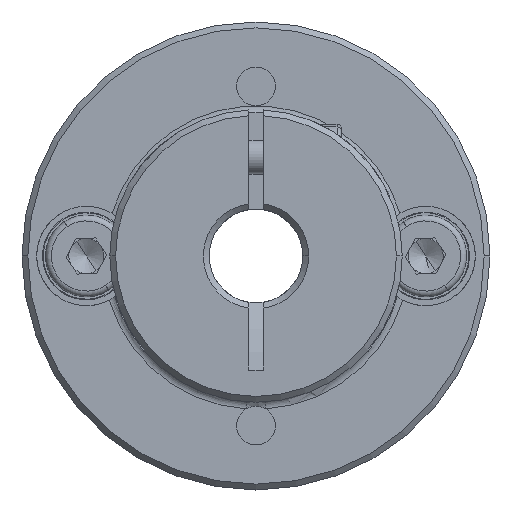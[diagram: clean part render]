
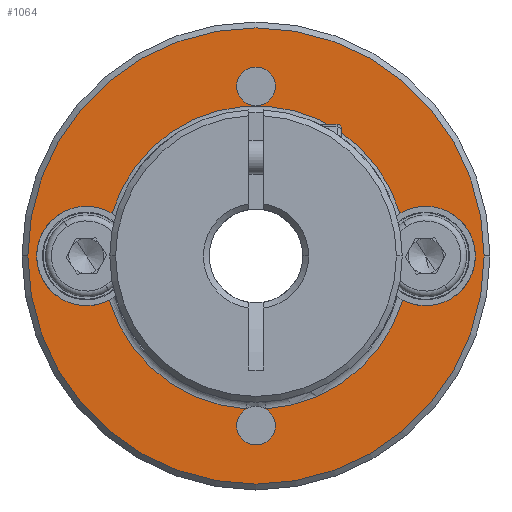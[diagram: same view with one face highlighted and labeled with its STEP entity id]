
A CAD part, front view. The second image highlights one B-rep face of the part: STEP entity #1064.
In plain terms, the highlighted planar face has unit normal (0, -1, 0).
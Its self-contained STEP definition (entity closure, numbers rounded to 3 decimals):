
#8 = DIRECTION ( 'NONE',  ( 1., 0., 0. ) ) ;
#98 = CIRCLE ( 'NONE', #5739, 4.25 ) ;
#136 = CARTESIAN_POINT ( 'NONE',  ( -30.755, -13.63, 40. ) ) ;
#140 = DIRECTION ( 'NONE',  ( 1., 0., 0. ) ) ;
#293 = VERTEX_POINT ( 'NONE', #136 ) ;
#538 = DIRECTION ( 'NONE',  ( 1., 0., 0. ) ) ;
#557 = AXIS2_PLACEMENT_3D ( 'NONE', #7334, #8339, #4388 ) ;
#699 = CARTESIAN_POINT ( 'NONE',  ( 6.745, -13.63, 40. ) ) ;
#746 = CARTESIAN_POINT ( 'NONE',  ( -31.505, -13.63, 40. ) ) ;
#983 = DIRECTION ( 'NONE',  ( 0., -1., 0. ) ) ;
#1064 = ADVANCED_FACE ( 'NONE', ( #9722, #12351, #7077 ), #1891, .T. ) ;
#1195 = CARTESIAN_POINT ( 'NONE',  ( -12.834, -13.63, 26.926 ) ) ;
#1251 = CIRCLE ( 'NONE', #2001, 1.65 ) ;
#1328 = CIRCLE ( 'NONE', #12698, 13.1 ) ;
#1385 = DIRECTION ( 'NONE',  ( 0., 1., 0. ) ) ;
#1387 = CARTESIAN_POINT ( 'NONE',  ( -13.655, -13.63, 25.5 ) ) ;
#1588 = CIRCLE ( 'NONE', #7190, 4.25 ) ;
#1776 = DIRECTION ( 'NONE',  ( 1., 0., 0. ) ) ;
#1805 = EDGE_LOOP ( 'NONE', ( #5403, #10533, #6155, #10962, #7065, #4972, #3251, #3624, #9839, #10892 ) ) ;
#1891 = PLANE ( 'NONE',  #5792 ) ;
#2001 = AXIS2_PLACEMENT_3D ( 'NONE', #3462, #1385, #538 ) ;
#2010 = CARTESIAN_POINT ( 'NONE',  ( -12.005, -13.63, 54.5 ) ) ;
#2146 = DIRECTION ( 'NONE',  ( 0., 1., 0. ) ) ;
#2210 = EDGE_CURVE ( 'NONE', #6198, #8143, #8414, .T. ) ;
#2237 = EDGE_CURVE ( 'NONE', #6585, #7682, #1328, .T. ) ;
#2239 = CIRCLE ( 'NONE', #4803, 4.25 ) ;
#2303 = EDGE_CURVE ( 'NONE', #3643, #10556, #98, .T. ) ;
#2759 = DIRECTION ( 'NONE',  ( 0., 1., 0. ) ) ;
#2765 = EDGE_CURVE ( 'NONE', #8352, #12144, #6727, .T. ) ;
#2916 = CARTESIAN_POINT ( 'NONE',  ( -12.005, -13.63, 40. ) ) ;
#2937 = CIRCLE ( 'NONE', #10426, 1.65 ) ;
#3081 = DIRECTION ( 'NONE',  ( 0., 1., 0. ) ) ;
#3141 = CIRCLE ( 'NONE', #5092, 13.1 ) ;
#3251 = ORIENTED_EDGE ( 'NONE', *, *, #12001, .T. ) ;
#3462 = CARTESIAN_POINT ( 'NONE',  ( -12.005, -13.63, 25.5 ) ) ;
#3507 = VERTEX_POINT ( 'NONE', #7005 ) ;
#3550 = VERTEX_POINT ( 'NONE', #1387 ) ;
#3624 = ORIENTED_EDGE ( 'NONE', *, *, #10952, .T. ) ;
#3643 = VERTEX_POINT ( 'NONE', #699 ) ;
#4388 = DIRECTION ( 'NONE',  ( 1., 0., 0. ) ) ;
#4538 = CARTESIAN_POINT ( 'NONE',  ( -12.005, -13.63, 40. ) ) ;
#4704 = DIRECTION ( 'NONE',  ( 0., -1., 0. ) ) ;
#4722 = VERTEX_POINT ( 'NONE', #11430 ) ;
#4803 = AXIS2_PLACEMENT_3D ( 'NONE', #5734, #12646, #6716 ) ;
#4925 = CARTESIAN_POINT ( 'NONE',  ( -26.505, -13.63, 40. ) ) ;
#4972 = ORIENTED_EDGE ( 'NONE', *, *, #10858, .T. ) ;
#5038 = EDGE_LOOP ( 'NONE', ( #6818, #6092 ) ) ;
#5092 = AXIS2_PLACEMENT_3D ( 'NONE', #8500, #12430, #12397 ) ;
#5175 = EDGE_CURVE ( 'NONE', #3550, #6585, #1251, .T. ) ;
#5288 = DIRECTION ( 'NONE',  ( 1., 0., 0. ) ) ;
#5403 = ORIENTED_EDGE ( 'NONE', *, *, #11482, .T. ) ;
#5714 = CARTESIAN_POINT ( 'NONE',  ( -12.005, -13.63, 25.5 ) ) ;
#5729 = CIRCLE ( 'NONE', #6813, 19.5 ) ;
#5734 = CARTESIAN_POINT ( 'NONE',  ( 2.495, -13.63, 40. ) ) ;
#5739 = AXIS2_PLACEMENT_3D ( 'NONE', #8048, #2146, #9218 ) ;
#5792 = AXIS2_PLACEMENT_3D ( 'NONE', #2916, #983, #8825 ) ;
#5827 = DIRECTION ( 'NONE',  ( 0., 1., 0. ) ) ;
#5912 = CIRCLE ( 'NONE', #9465, 1.65 ) ;
#6092 = ORIENTED_EDGE ( 'NONE', *, *, #2765, .T. ) ;
#6155 = ORIENTED_EDGE ( 'NONE', *, *, #7388, .T. ) ;
#6198 = VERTEX_POINT ( 'NONE', #9455 ) ;
#6418 = DIRECTION ( 'NONE',  ( 0., 1., 0. ) ) ;
#6585 = VERTEX_POINT ( 'NONE', #1195 ) ;
#6716 = DIRECTION ( 'NONE',  ( 1., 0., 0. ) ) ;
#6727 = CIRCLE ( 'NONE', #9414, 19.5 ) ;
#6792 = AXIS2_PLACEMENT_3D ( 'NONE', #4925, #6922, #8 ) ;
#6813 = AXIS2_PLACEMENT_3D ( 'NONE', #4538, #4704, #12707 ) ;
#6818 = ORIENTED_EDGE ( 'NONE', *, *, #9948, .T. ) ;
#6854 = DIRECTION ( 'NONE',  ( 1., 0., 0. ) ) ;
#6922 = DIRECTION ( 'NONE',  ( 0., 1., 0. ) ) ;
#7005 = CARTESIAN_POINT ( 'NONE',  ( -11.175, -13.63, 26.926 ) ) ;
#7065 = ORIENTED_EDGE ( 'NONE', *, *, #2303, .T. ) ;
#7077 = FACE_BOUND ( 'NONE', #9364, .T. ) ;
#7190 = AXIS2_PLACEMENT_3D ( 'NONE', #7305, #6418, #7426 ) ;
#7305 = CARTESIAN_POINT ( 'NONE',  ( -26.505, -13.63, 40. ) ) ;
#7334 = CARTESIAN_POINT ( 'NONE',  ( -12.005, -13.63, 40. ) ) ;
#7388 = EDGE_CURVE ( 'NONE', #11296, #10424, #8906, .T. ) ;
#7426 = DIRECTION ( 'NONE',  ( 1., 0., 0. ) ) ;
#7682 = VERTEX_POINT ( 'NONE', #10770 ) ;
#7705 = CARTESIAN_POINT ( 'NONE',  ( -10.355, -13.63, 54.5 ) ) ;
#7774 = CARTESIAN_POINT ( 'NONE',  ( 0.54, -13.63, 36.226 ) ) ;
#8048 = CARTESIAN_POINT ( 'NONE',  ( 2.495, -13.63, 40. ) ) ;
#8143 = VERTEX_POINT ( 'NONE', #7705 ) ;
#8261 = CARTESIAN_POINT ( 'NONE',  ( 7.495, -13.63, 40. ) ) ;
#8339 = DIRECTION ( 'NONE',  ( 0., 1., 0. ) ) ;
#8352 = VERTEX_POINT ( 'NONE', #8261 ) ;
#8414 = CIRCLE ( 'NONE', #10307, 1.65 ) ;
#8500 = CARTESIAN_POINT ( 'NONE',  ( -12.005, -13.63, 40. ) ) ;
#8638 = EDGE_CURVE ( 'NONE', #10424, #3643, #2239, .T. ) ;
#8700 = CIRCLE ( 'NONE', #6792, 4.25 ) ;
#8825 = DIRECTION ( 'NONE',  ( 1., 0., 0. ) ) ;
#8906 = CIRCLE ( 'NONE', #557, 12.829 ) ;
#8916 = CARTESIAN_POINT ( 'NONE',  ( -12.005, -13.63, 40. ) ) ;
#8961 = DIRECTION ( 'NONE',  ( 1., 0., 0. ) ) ;
#8972 = EDGE_CURVE ( 'NONE', #8143, #6198, #5912, .T. ) ;
#8980 = EDGE_CURVE ( 'NONE', #293, #11296, #8700, .T. ) ;
#9218 = DIRECTION ( 'NONE',  ( 1., 0., 0. ) ) ;
#9364 = EDGE_LOOP ( 'NONE', ( #10252, #12639 ) ) ;
#9414 = AXIS2_PLACEMENT_3D ( 'NONE', #12728, #10701, #1776 ) ;
#9455 = CARTESIAN_POINT ( 'NONE',  ( -13.655, -13.63, 54.5 ) ) ;
#9465 = AXIS2_PLACEMENT_3D ( 'NONE', #11802, #5827, #140 ) ;
#9722 = FACE_OUTER_BOUND ( 'NONE', #5038, .T. ) ;
#9839 = ORIENTED_EDGE ( 'NONE', *, *, #5175, .T. ) ;
#9948 = EDGE_CURVE ( 'NONE', #12144, #8352, #5729, .T. ) ;
#9963 = DIRECTION ( 'NONE',  ( 0., 1., 0. ) ) ;
#10239 = DIRECTION ( 'NONE',  ( 0., 1., 0. ) ) ;
#10252 = ORIENTED_EDGE ( 'NONE', *, *, #2210, .T. ) ;
#10307 = AXIS2_PLACEMENT_3D ( 'NONE', #2010, #9963, #8961 ) ;
#10424 = VERTEX_POINT ( 'NONE', #10830 ) ;
#10426 = AXIS2_PLACEMENT_3D ( 'NONE', #12123, #10239, #5288 ) ;
#10533 = ORIENTED_EDGE ( 'NONE', *, *, #8980, .T. ) ;
#10556 = VERTEX_POINT ( 'NONE', #7774 ) ;
#10604 = DIRECTION ( 'NONE',  ( 1., 0., 0. ) ) ;
#10701 = DIRECTION ( 'NONE',  ( 0., -1., 0. ) ) ;
#10770 = CARTESIAN_POINT ( 'NONE',  ( -24.55, -13.63, 36.226 ) ) ;
#10805 = CIRCLE ( 'NONE', #12143, 1.65 ) ;
#10830 = CARTESIAN_POINT ( 'NONE',  ( 0.298, -13.63, 43.638 ) ) ;
#10837 = CARTESIAN_POINT ( 'NONE',  ( -24.307, -13.63, 43.638 ) ) ;
#10858 = EDGE_CURVE ( 'NONE', #10556, #3507, #3141, .T. ) ;
#10892 = ORIENTED_EDGE ( 'NONE', *, *, #2237, .T. ) ;
#10952 = EDGE_CURVE ( 'NONE', #4722, #3550, #10805, .T. ) ;
#10962 = ORIENTED_EDGE ( 'NONE', *, *, #8638, .T. ) ;
#11296 = VERTEX_POINT ( 'NONE', #10837 ) ;
#11430 = CARTESIAN_POINT ( 'NONE',  ( -10.355, -13.63, 25.5 ) ) ;
#11482 = EDGE_CURVE ( 'NONE', #7682, #293, #1588, .T. ) ;
#11802 = CARTESIAN_POINT ( 'NONE',  ( -12.005, -13.63, 54.5 ) ) ;
#12001 = EDGE_CURVE ( 'NONE', #3507, #4722, #2937, .T. ) ;
#12123 = CARTESIAN_POINT ( 'NONE',  ( -12.005, -13.63, 25.5 ) ) ;
#12143 = AXIS2_PLACEMENT_3D ( 'NONE', #5714, #2759, #10604 ) ;
#12144 = VERTEX_POINT ( 'NONE', #746 ) ;
#12351 = FACE_BOUND ( 'NONE', #1805, .T. ) ;
#12397 = DIRECTION ( 'NONE',  ( 1., 0., 0. ) ) ;
#12430 = DIRECTION ( 'NONE',  ( 0., 1., 0. ) ) ;
#12639 = ORIENTED_EDGE ( 'NONE', *, *, #8972, .T. ) ;
#12646 = DIRECTION ( 'NONE',  ( 0., 1., 0. ) ) ;
#12698 = AXIS2_PLACEMENT_3D ( 'NONE', #8916, #3081, #6854 ) ;
#12707 = DIRECTION ( 'NONE',  ( 1., 0., 0. ) ) ;
#12728 = CARTESIAN_POINT ( 'NONE',  ( -12.005, -13.63, 40. ) ) ;
